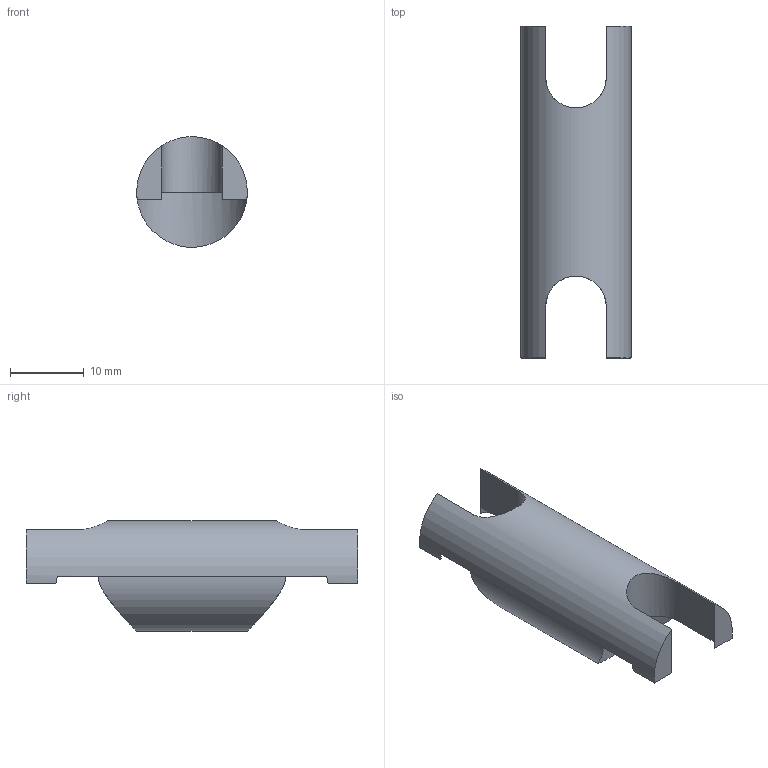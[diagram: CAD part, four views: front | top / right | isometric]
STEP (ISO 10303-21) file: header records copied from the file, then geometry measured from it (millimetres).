
FILE_DESCRIPTION((''),'2;1');
FILE_NAME('SP045171510','2002-12-27T',('Lipro doo'),('Lipro d.o.o.'),'PRO/ENGINEER BY PARAMETRIC TECHNOLOGY CORPORATION, 2001150','PRO/ENGINEER BY PARAMETRIC TECHNOLOGY CORPORATION, 2001150','');
FILE_SCHEMA(('CONFIG_CONTROL_DESIGN'));
Length unit declared in the file: millimetre
Products named in the file (1): SP045171510
Bounding box: 15 x 45 x 14.99 mm (x, y, z)
Volume: 4308.3 mm3; surface area: 2259.6 mm2
Topology: 1 solids, 1 shells, 24 faces, 62 edges, 40 vertices
Faces by surface type: plane 14, cylinder 10
Entity records: 888 total; most frequent: CARTESIAN_POINT 262, ORIENTED_EDGE 124, DIRECTION 118, EDGE_CURVE 62, AXIS2_PLACEMENT_3D 40, VERTEX_POINT 40, VECTOR 38, LINE 38
